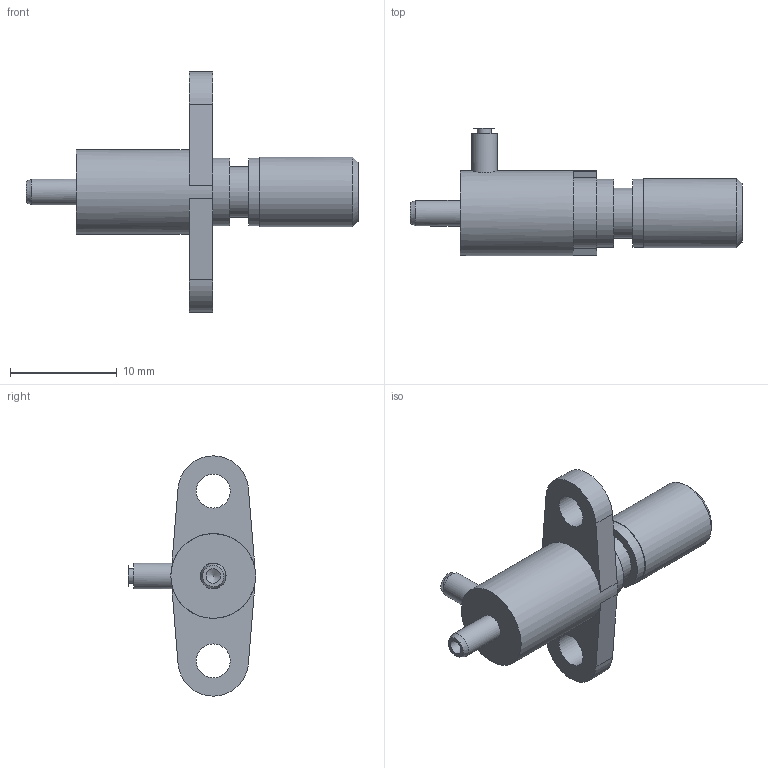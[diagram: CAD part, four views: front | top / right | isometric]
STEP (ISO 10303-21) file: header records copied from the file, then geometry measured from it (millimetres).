
FILE_DESCRIPTION(/* description */ ('SolidWorks IGES file using NURBS representation for surfaces '),/* implementation_level */ '2;1');
FILE_NAME(/* name */ 'K:\Normteile INVENTOR\Air-Logic\Needle Valves\F-2822-41-KE.IGS.ipt.stp',/* time_stamp */ '2020-05-27T10:43:48+02:00',/* author */ ('amarsh'),/* organization */ (''),/* preprocessor_version */ 'ST-DEVELOPER v18',/* originating_system */ 'Autodesk Inventor 2020',/* authorisation */ '');
FILE_SCHEMA (('AUTOMOTIVE_DESIGN { 1 0 10303 214 3 1 1 }'));
Length unit declared in the file: millimetre
Products named in the file (1): F-2822-41-KE.IGS
Bounding box: 31.05 x 11.89 x 22.48 mm (x, y, z)
Volume: 1251.4 mm3; surface area: 1130.5 mm2
Topology: 2 solids, 2 shells, 33 faces, 96 edges, 72 vertices
Faces by surface type: plane 15, cylinder 13, cone 5
Full cylindrical faces by diameter (mm): 1.35 x2, 2.39 x2, 3.18 x2, 4.7 x1, 6.35 x2, 6.5 x1, 7.92 x1
Entity records: 1241 total; most frequent: CARTESIAN_POINT 235, DIRECTION 220, ORIENTED_EDGE 188, EDGE_CURVE 94, AXIS2_PLACEMENT_3D 94, VERTEX_POINT 72, CIRCLE 60, EDGE_LOOP 44
